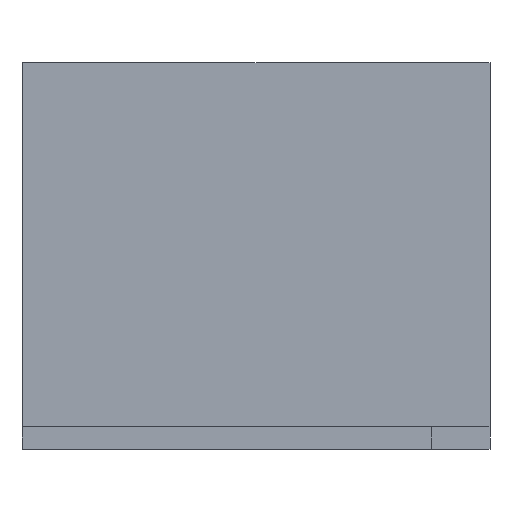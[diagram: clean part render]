
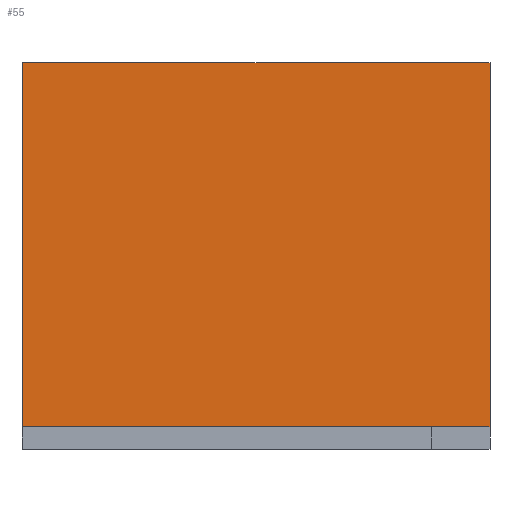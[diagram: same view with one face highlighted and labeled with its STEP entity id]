
A CAD part, front view. The second image highlights one B-rep face of the part: STEP entity #55.
In plain terms, the highlighted planar face has unit normal (0, -1, 0).
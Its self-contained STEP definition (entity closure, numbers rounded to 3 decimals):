
#55 = ADVANCED_FACE('',(#56),#98,.F.);
#56 = FACE_BOUND('',#57,.F.);
#57 = EDGE_LOOP('',(#58,#68,#76,#84,#92));
#58 = ORIENTED_EDGE('',*,*,#59,.T.);
#59 = EDGE_CURVE('',#60,#62,#64,.T.);
#60 = VERTEX_POINT('',#61);
#61 = CARTESIAN_POINT('',(0.,0.,0.));
#62 = VERTEX_POINT('',#63);
#63 = CARTESIAN_POINT('',(0.,0.,21.));
#64 = LINE('',#65,#66);
#65 = CARTESIAN_POINT('',(0.,0.,0.));
#66 = VECTOR('',#67,1.);
#67 = DIRECTION('',(0.,0.,1.));
#68 = ORIENTED_EDGE('',*,*,#69,.T.);
#69 = EDGE_CURVE('',#62,#70,#72,.T.);
#70 = VERTEX_POINT('',#71);
#71 = CARTESIAN_POINT('',(27.,0.,21.));
#72 = LINE('',#73,#74);
#73 = CARTESIAN_POINT('',(0.,0.,21.));
#74 = VECTOR('',#75,1.);
#75 = DIRECTION('',(1.,0.,0.));
#76 = ORIENTED_EDGE('',*,*,#77,.F.);
#77 = EDGE_CURVE('',#78,#70,#80,.T.);
#78 = VERTEX_POINT('',#79);
#79 = CARTESIAN_POINT('',(27.,0.,0.));
#80 = LINE('',#81,#82);
#81 = CARTESIAN_POINT('',(27.,0.,0.));
#82 = VECTOR('',#83,1.);
#83 = DIRECTION('',(0.,0.,1.));
#84 = ORIENTED_EDGE('',*,*,#85,.F.);
#85 = EDGE_CURVE('',#86,#78,#88,.T.);
#86 = VERTEX_POINT('',#87);
#87 = CARTESIAN_POINT('',(23.6,0.,0.));
#88 = LINE('',#89,#90);
#89 = CARTESIAN_POINT('',(0.,0.,0.));
#90 = VECTOR('',#91,1.);
#91 = DIRECTION('',(1.,0.,0.));
#92 = ORIENTED_EDGE('',*,*,#93,.F.);
#93 = EDGE_CURVE('',#60,#86,#94,.T.);
#94 = LINE('',#95,#96);
#95 = CARTESIAN_POINT('',(0.,0.,0.));
#96 = VECTOR('',#97,1.);
#97 = DIRECTION('',(1.,0.,0.));
#98 = PLANE('',#99);
#99 = AXIS2_PLACEMENT_3D('',#100,#101,#102);
#100 = CARTESIAN_POINT('',(0.,0.,0.));
#101 = DIRECTION('',(0.,1.,0.));
#102 = DIRECTION('',(1.,0.,0.));
